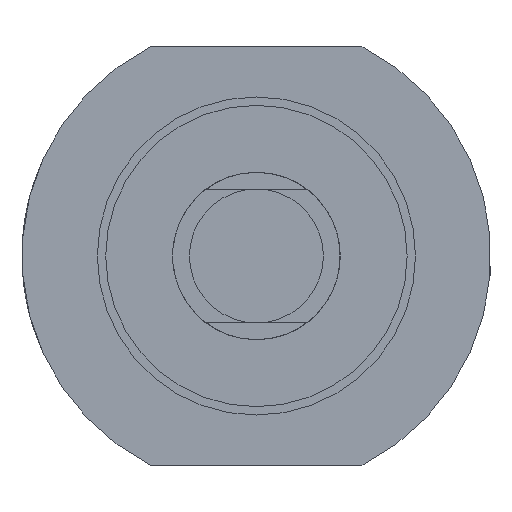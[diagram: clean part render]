
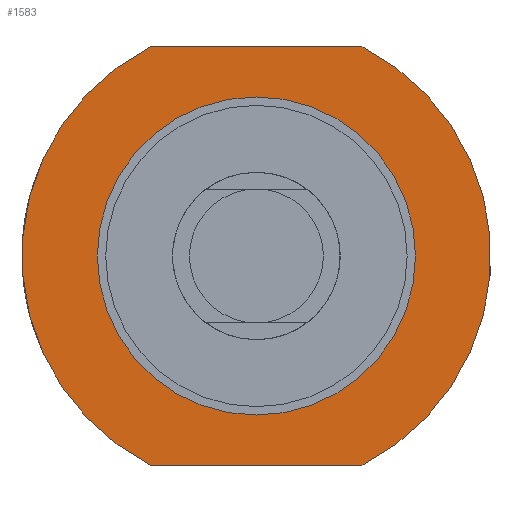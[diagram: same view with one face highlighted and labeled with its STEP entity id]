
A CAD part, left-side view. The second image highlights one B-rep face of the part: STEP entity #1583.
In plain terms, the highlighted planar face has unit normal (-1, 0, 0).
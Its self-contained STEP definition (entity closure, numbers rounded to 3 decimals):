
#25 = CARTESIAN_POINT ( 'NONE',  ( 34., 11.874, 12.5 ) ) ;
#95 = CARTESIAN_POINT ( 'NONE',  ( 34., 0., 9.5 ) ) ;
#115 = EDGE_LOOP ( 'NONE', ( #1727, #713, #1097, #232 ) ) ;
#128 = EDGE_CURVE ( 'NONE', #678, #1065, #310, .T. ) ;
#150 = DIRECTION ( 'NONE',  ( 0., 0., 1. ) ) ;
#210 = CARTESIAN_POINT ( 'NONE',  ( 34., 0., 0. ) ) ;
#232 = ORIENTED_EDGE ( 'NONE', *, *, #403, .F. ) ;
#294 = LINE ( 'NONE', #1515, #391 ) ;
#310 = CIRCLE ( 'NONE', #1524, 9.5 ) ;
#318 = CARTESIAN_POINT ( 'NONE',  ( 34., -6.305, 12.5 ) ) ;
#346 = VERTEX_POINT ( 'NONE', #318 ) ;
#365 = EDGE_CURVE ( 'NONE', #945, #346, #1280, .T. ) ;
#391 = VECTOR ( 'NONE', #1205, 1000. ) ;
#403 = EDGE_CURVE ( 'NONE', #1132, #346, #1315, .T. ) ;
#452 = EDGE_CURVE ( 'NONE', #945, #1461, #294, .T. ) ;
#498 = CARTESIAN_POINT ( 'NONE',  ( 34., -6.305, -12.5 ) ) ;
#520 = AXIS2_PLACEMENT_3D ( 'NONE', #1149, #1365, #587 ) ;
#527 = ORIENTED_EDGE ( 'NONE', *, *, #1493, .F. ) ;
#587 = DIRECTION ( 'NONE',  ( 0., 0., 1. ) ) ;
#590 = FACE_OUTER_BOUND ( 'NONE', #115, .T. ) ;
#615 = PLANE ( 'NONE',  #1124 ) ;
#672 = CARTESIAN_POINT ( 'NONE',  ( 34., 0., -14. ) ) ;
#678 = VERTEX_POINT ( 'NONE', #95 ) ;
#713 = ORIENTED_EDGE ( 'NONE', *, *, #452, .F. ) ;
#743 = CARTESIAN_POINT ( 'NONE',  ( 34., 0., 0. ) ) ;
#776 = CARTESIAN_POINT ( 'NONE',  ( 34., 6.305, 12.5 ) ) ;
#784 = CIRCLE ( 'NONE', #520, 14. ) ;
#819 = CARTESIAN_POINT ( 'NONE',  ( 34., 0., 0. ) ) ;
#848 = AXIS2_PLACEMENT_3D ( 'NONE', #210, #1683, #150 ) ;
#870 = CARTESIAN_POINT ( 'NONE',  ( 34., 6.305, -12.5 ) ) ;
#914 = DIRECTION ( 'NONE',  ( 0., 0., 1. ) ) ;
#945 = VERTEX_POINT ( 'NONE', #498 ) ;
#950 = AXIS2_PLACEMENT_3D ( 'NONE', #743, #1690, #914 ) ;
#976 = VECTOR ( 'NONE', #1425, 1000. ) ;
#1029 = DIRECTION ( 'NONE',  ( 1., 0., 0. ) ) ;
#1065 = VERTEX_POINT ( 'NONE', #1694 ) ;
#1097 = ORIENTED_EDGE ( 'NONE', *, *, #365, .T. ) ;
#1124 = AXIS2_PLACEMENT_3D ( 'NONE', #672, #1029, #1680 ) ;
#1132 = VERTEX_POINT ( 'NONE', #776 ) ;
#1149 = CARTESIAN_POINT ( 'NONE',  ( 34., 0., 0. ) ) ;
#1182 = DIRECTION ( 'NONE',  ( -1., 0., 0. ) ) ;
#1205 = DIRECTION ( 'NONE',  ( 0., 1., 0. ) ) ;
#1280 = CIRCLE ( 'NONE', #848, 14. ) ;
#1296 = ORIENTED_EDGE ( 'NONE', *, *, #128, .F. ) ;
#1315 = LINE ( 'NONE', #25, #976 ) ;
#1365 = DIRECTION ( 'NONE',  ( -1., 0., 0. ) ) ;
#1377 = EDGE_LOOP ( 'NONE', ( #1296, #527 ) ) ;
#1425 = DIRECTION ( 'NONE',  ( 0., -1., 0. ) ) ;
#1451 = FACE_BOUND ( 'NONE', #1377, .T. ) ;
#1461 = VERTEX_POINT ( 'NONE', #870 ) ;
#1483 = EDGE_CURVE ( 'NONE', #1132, #1461, #784, .T. ) ;
#1493 = EDGE_CURVE ( 'NONE', #1065, #678, #1749, .T. ) ;
#1515 = CARTESIAN_POINT ( 'NONE',  ( 34., 11.874, -12.5 ) ) ;
#1524 = AXIS2_PLACEMENT_3D ( 'NONE', #819, #1182, #1714 ) ;
#1583 = ADVANCED_FACE ( 'NONE', ( #1451, #590 ), #615, .F. ) ;
#1680 = DIRECTION ( 'NONE',  ( 0., 0., -1. ) ) ;
#1683 = DIRECTION ( 'NONE',  ( -1., 0., 0. ) ) ;
#1690 = DIRECTION ( 'NONE',  ( -1., 0., 0. ) ) ;
#1694 = CARTESIAN_POINT ( 'NONE',  ( 34., 0., -9.5 ) ) ;
#1714 = DIRECTION ( 'NONE',  ( 0., 0., 1. ) ) ;
#1727 = ORIENTED_EDGE ( 'NONE', *, *, #1483, .T. ) ;
#1749 = CIRCLE ( 'NONE', #950, 9.5 ) ;
